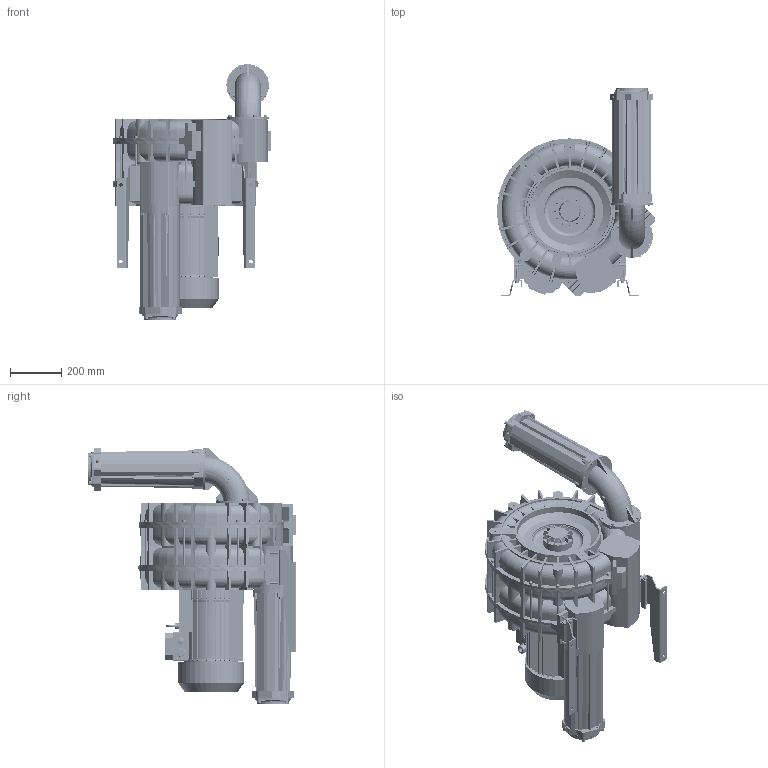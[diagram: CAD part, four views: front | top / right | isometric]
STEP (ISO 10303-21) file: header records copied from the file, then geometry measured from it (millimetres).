
FILE_DESCRIPTION (( 'STEP AP203' ), '1' );
FILE_NAME ('STP-L_e_11_TD_MOR_IE3WR_132_15.0kW-3_24-00.step', '2025-01-14T09:27:44', ( '' ), ( '' ), 'SwSTEP 2.0', 'SolidWorks 2024', '' );
FILE_SCHEMA (( 'CONFIG_CONTROL_DESIGN' ));
Length unit declared in the file: millimetre
Products named in the file (1): STP-L_e_11_TD_MOR_IE3WR_132_15.0kW-3_24-00
Bounding box: 616.34 x 813.84 x 1000.5 mm (x, y, z)
Volume: 100910531.2 mm3; surface area: 5618637.1 mm2
Topology: 93 solids, 93 shells, 6646 faces, 17293 edges, 10861 vertices
Faces by surface type: plane 2484, cylinder 2151, bspline 846, torus 582, cone 526, sphere 57
Full cylindrical faces by diameter (mm): 6.8 x32, 7.5 x8, 8 x37, 8.4 x33, 8.5 x14, 8.566 x2, 8.8 x4, 9 x8, 9.98 x2, 10 x3, 11 x8, 12 x2, 12.02 x2, 13 x54, 14 x14, 16 x4, 16.5 x2, 18 x1, 19 x1, 20 x2, 21.4 x1, 24 x4, 25 x3, 28 x1, 110.4 x2, 115 x4, 120 x1, 128 x3, 165 x2, 207 x6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
Entity records: 308187 total; most frequent: CARTESIAN_POINT 157453, ORIENTED_EDGE 32964, DIRECTION 29080, EDGE_CURVE 16482, AXIS2_PLACEMENT_3D 11130, VERTEX_POINT 10620, EDGE_LOOP 7446, FACE_OUTER_BOUND 6993
